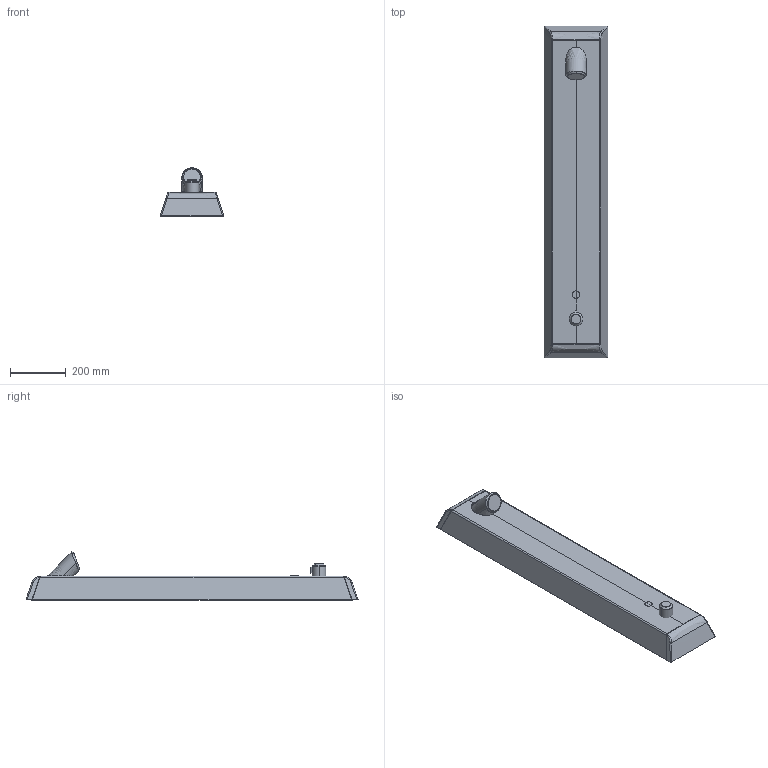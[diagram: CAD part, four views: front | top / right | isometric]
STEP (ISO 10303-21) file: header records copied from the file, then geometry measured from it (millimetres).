
FILE_DESCRIPTION (( 'STEP AP203' ), '1' );
FILE_NAME ('9660BFZ(2026)+96602239(2026).STEP', '2026-02-10T08:52:02', ( '' ), ( '' ), 'SwSTEP 2.0', 'SolidWorks 2024', '' );
FILE_SCHEMA (( 'CONFIG_CONTROL_DESIGN' ));
Length unit declared in the file: millimetre
Products named in the file (1): 9660BFZ(2026)+96602239(2026)
Bounding box: 229.87 x 1196.31 x 173.75 mm (x, y, z)
Volume: 20908622 mm3; surface area: 831045.6 mm2
Topology: 7 solids, 7 shells, 141 faces, 312 edges, 183 vertices
Faces by surface type: bspline 89, cylinder 27, plane 22, cone 3
Entity records: 10577 total; most frequent: CARTESIAN_POINT 8098, ORIENTED_EDGE 616, EDGE_CURVE 308, DIRECTION 301, VERTEX_POINT 183, B_SPLINE_CURVE_WITH_KNOTS 167, EDGE_LOOP 143, ADVANCED_FACE 141
